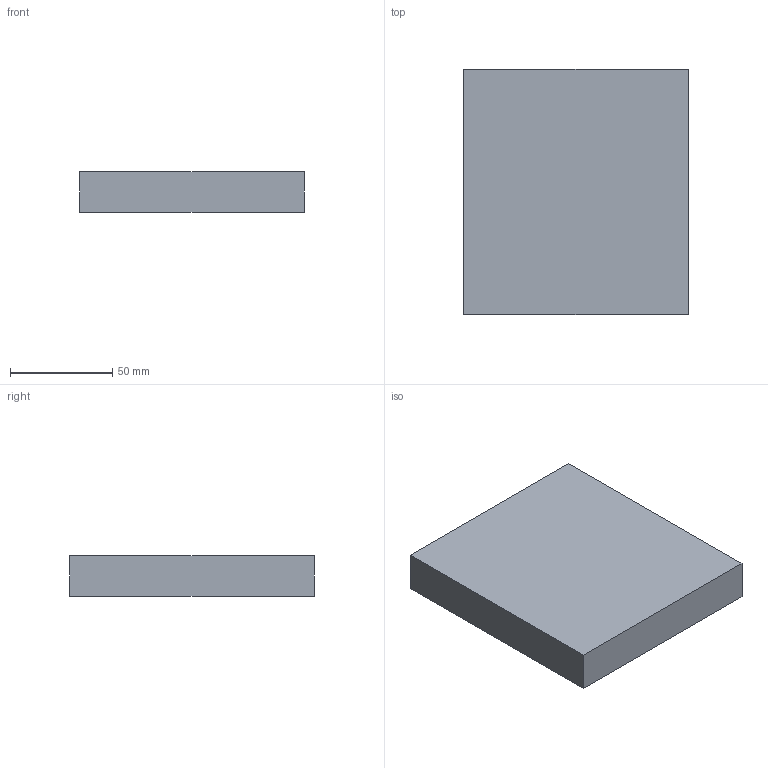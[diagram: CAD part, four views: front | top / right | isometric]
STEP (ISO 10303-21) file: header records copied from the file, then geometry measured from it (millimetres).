
FILE_DESCRIPTION(('Open CASCADE Model'),'2;1');
FILE_NAME('Open CASCADE Shape Model','2026-09-19T12:55:25',('Author'),( 'Open CASCADE'),'Open CASCADE STEP processor 7.9','Open CASCADE 7.9' ,'Unknown');
FILE_SCHEMA(('AUTOMOTIVE_DESIGN { 1 0 10303 214 1 1 1 1 }'));
Length unit declared in the file: millimetre
Products named in the file (1): Open CASCADE STEP translator 7.9 473
Bounding box: 110 x 120 x 20 mm (x, y, z)
Volume: 264000 mm3; surface area: 35600 mm2
Topology: 1 solids, 1 shells, 6 faces, 12 edges, 8 vertices
Faces by surface type: plane 6
Entity records: 322 total; most frequent: CARTESIAN_POINT 51, DIRECTION 50, LINE 36, VECTOR 36, ORIENTED_EDGE 24, PCURVE 24, DEFINITIONAL_REPRESENTATION 24, EDGE_CURVE 12
